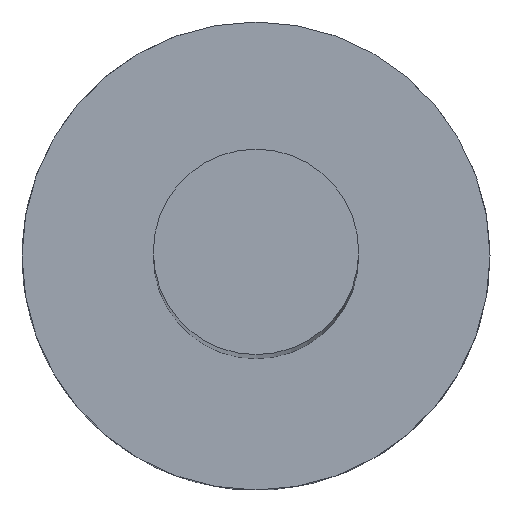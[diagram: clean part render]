
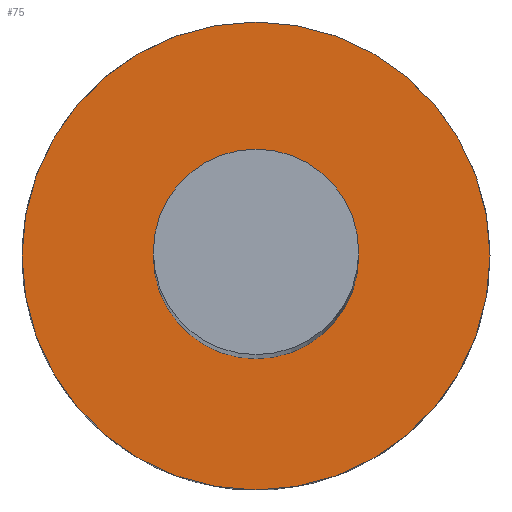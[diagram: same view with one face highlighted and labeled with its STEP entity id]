
A CAD part, top view. The second image highlights one B-rep face of the part: STEP entity #75.
In plain terms, the highlighted planar face has unit normal (0, 0, 1).
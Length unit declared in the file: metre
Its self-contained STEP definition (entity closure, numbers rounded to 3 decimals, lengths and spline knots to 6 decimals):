
#12=PLANE('',#98);
#23=ORIENTED_EDGE('',*,*,#35,.F.);
#24=ORIENTED_EDGE('',*,*,#33,.T.);
#33=EDGE_CURVE('',#39,#39,#44,.T.);
#35=EDGE_CURVE('',#41,#41,#46,.T.);
#39=VERTEX_POINT('',#149);
#41=VERTEX_POINT('',#154);
#44=CIRCLE('',#96,0.00216);
#46=CIRCLE('',#99,0.00492);
#52=EDGE_LOOP('',(#23));
#53=EDGE_LOOP('',(#24));
#64=FACE_BOUND('',#52,.T.);
#65=FACE_BOUND('',#53,.T.);
#75=ADVANCED_FACE('',(#64,#65),#12,.F.);
#96=AXIS2_PLACEMENT_3D('',#148,#113,#114);
#98=AXIS2_PLACEMENT_3D('',#152,#117,#118);
#99=AXIS2_PLACEMENT_3D('',#153,#119,#120);
#113=DIRECTION('',(0.,0.,-1.));
#114=DIRECTION('',(0.,1.,0.));
#117=DIRECTION('',(0.,0.,-1.));
#118=DIRECTION('',(0.,1.,0.));
#119=DIRECTION('',(0.,0.,-1.));
#120=DIRECTION('',(0.,1.,0.));
#148=CARTESIAN_POINT('',(0.046,0.060002,-0.009127));
#149=CARTESIAN_POINT('',(0.046,0.062162,-0.009127));
#152=CARTESIAN_POINT('',(0.04954,0.060002,-0.009127));
#153=CARTESIAN_POINT('',(0.046,0.060002,-0.009127));
#154=CARTESIAN_POINT('',(0.046,0.064922,-0.009127));
